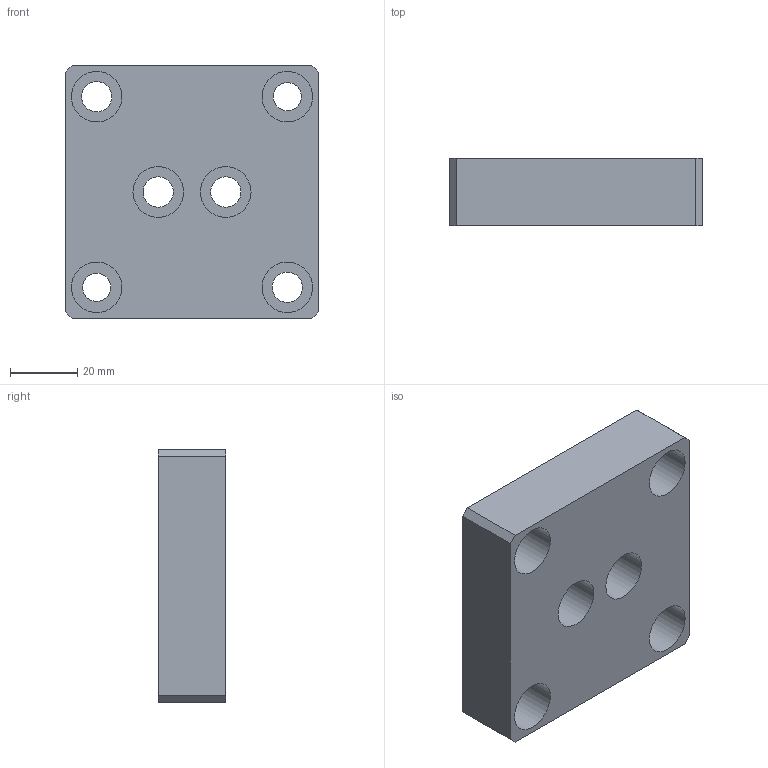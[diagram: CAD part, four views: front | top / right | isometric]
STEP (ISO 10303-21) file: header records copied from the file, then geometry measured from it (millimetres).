
FILE_DESCRIPTION(/* description */ (''),/* implementation_level */ '2;1');
FILE_NAME(/* name */ 'C:\Users\Jefferson\Desktop\Biblioteca Pro Nitro 2024\Flanges\PNB-56-XXX\PNB-56-050.stp',/* time_stamp */ '2024-01-29T14:08:14-03:00',/* author */ ('Jefferson'),/* organization */ (''),/* preprocessor_version */ 'ST-DEVELOPER v18.1',/* originating_system */ 'Autodesk Inventor 2021',/* authorisation */ '');
FILE_SCHEMA (('AUTOMOTIVE_DESIGN { 1 0 10303 214 3 1 1 }'));
Length unit declared in the file: millimetre
Products named in the file (1): PNB-56-050
Bounding box: 75 x 20 x 75 mm (x, y, z)
Volume: 96242.9 mm3; surface area: 21222.1 mm2
Topology: 1 solids, 1 shells, 187 faces, 501 edges, 338 vertices
Faces by surface type: bspline 91, plane 84, cylinder 12
Full cylindrical faces by diameter (mm): 8.376 x2, 9 x4, 15 x6
Entity records: 6378 total; most frequent: CARTESIAN_POINT 2210, ORIENTED_EDGE 1002, DIRECTION 549, EDGE_CURVE 501, VERTEX_POINT 338, LINE 283, VECTOR 283, EDGE_LOOP 221
